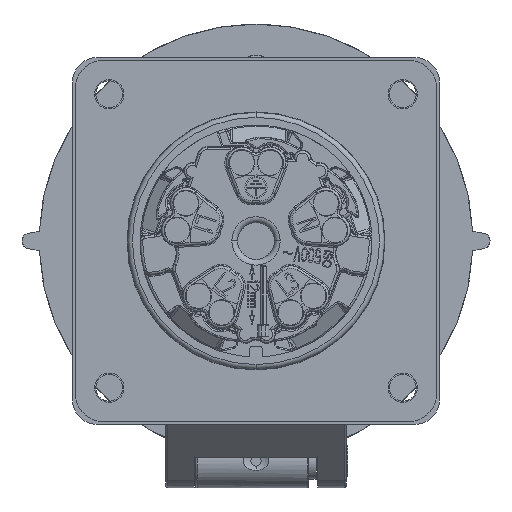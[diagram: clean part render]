
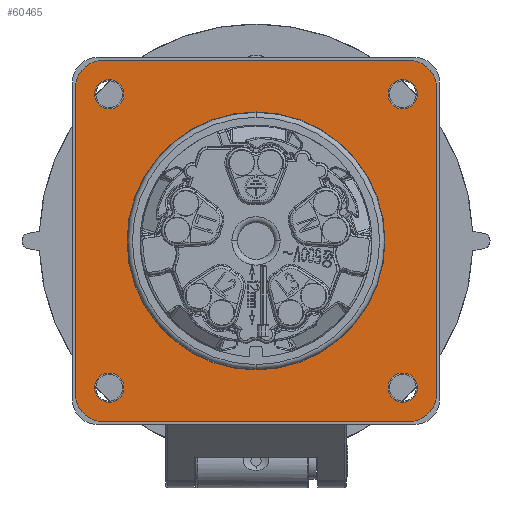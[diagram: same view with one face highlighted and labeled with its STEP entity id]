
A CAD part, front view. The second image highlights one B-rep face of the part: STEP entity #60465.
In plain terms, the highlighted planar face has unit normal (0, -1, 0).
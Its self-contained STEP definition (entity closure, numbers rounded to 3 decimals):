
#11104=CARTESIAN_POINT('',(-31.,-2.,31.));
#11105=DIRECTION('',(0.,-1.,0.));
#11106=DIRECTION('',(0.,0.,1.));
#11107=AXIS2_PLACEMENT_3D('',#11104,#11105,#11106);
#11109=DIRECTION('',(-1.,0.,0.));
#11110=VECTOR('',#11109,62.);
#11111=CARTESIAN_POINT('',(31.,-2.,37.));
#11112=LINE('6906',#11111,#11110);
#11113=CARTESIAN_POINT('',(31.,-2.,31.));
#11114=DIRECTION('',(0.,-1.,0.));
#11115=DIRECTION('',(1.,0.,0.));
#11116=AXIS2_PLACEMENT_3D('',#11113,#11114,#11115);
#11118=DIRECTION('',(0.,0.,1.));
#11119=VECTOR('',#11118,62.);
#11120=CARTESIAN_POINT('',(37.,-2.,-31.));
#11121=LINE('6904',#11120,#11119);
#11122=CARTESIAN_POINT('',(31.,-2.,-31.));
#11123=DIRECTION('',(0.,-1.,0.));
#11124=DIRECTION('',(0.,0.,-1.));
#11125=AXIS2_PLACEMENT_3D('',#11122,#11123,#11124);
#11127=DIRECTION('',(1.,0.,0.));
#11128=VECTOR('',#11127,62.);
#11129=CARTESIAN_POINT('',(-31.,-2.,-37.));
#11130=LINE('6902',#11129,#11128);
#11131=CARTESIAN_POINT('',(-31.,-2.,-31.));
#11132=DIRECTION('',(0.,-1.,0.));
#11133=DIRECTION('',(-1.,0.,0.));
#11134=AXIS2_PLACEMENT_3D('',#11131,#11132,#11133);
#11136=DIRECTION('',(0.,0.,-1.));
#11137=VECTOR('',#11136,62.);
#11138=CARTESIAN_POINT('',(-37.,-2.,31.));
#11139=LINE('6900',#11138,#11137);
#11140=CARTESIAN_POINT('',(-30.,-2.,30.));
#11141=DIRECTION('',(0.,1.,0.));
#11142=DIRECTION('',(1.,0.,0.));
#11143=AXIS2_PLACEMENT_3D('',#11140,#11141,#11142);
#11145=CARTESIAN_POINT('',(-30.,-2.,30.));
#11146=DIRECTION('',(0.,1.,0.));
#11147=DIRECTION('',(-1.,0.,0.));
#11148=AXIS2_PLACEMENT_3D('',#11145,#11146,#11147);
#11150=CARTESIAN_POINT('',(30.,-2.,30.));
#11151=DIRECTION('',(0.,1.,0.));
#11152=DIRECTION('',(1.,0.,0.));
#11153=AXIS2_PLACEMENT_3D('',#11150,#11151,#11152);
#11155=CARTESIAN_POINT('',(30.,-2.,30.));
#11156=DIRECTION('',(0.,1.,0.));
#11157=DIRECTION('',(-1.,0.,0.));
#11158=AXIS2_PLACEMENT_3D('',#11155,#11156,#11157);
#11160=CARTESIAN_POINT('',(-30.,-2.,-30.));
#11161=DIRECTION('',(0.,1.,0.));
#11162=DIRECTION('',(1.,0.,0.));
#11163=AXIS2_PLACEMENT_3D('',#11160,#11161,#11162);
#11165=CARTESIAN_POINT('',(-30.,-2.,-30.));
#11166=DIRECTION('',(0.,1.,0.));
#11167=DIRECTION('',(-1.,0.,0.));
#11168=AXIS2_PLACEMENT_3D('',#11165,#11166,#11167);
#11170=CARTESIAN_POINT('',(30.,-2.,-30.));
#11171=DIRECTION('',(0.,1.,0.));
#11172=DIRECTION('',(1.,0.,0.));
#11173=AXIS2_PLACEMENT_3D('',#11170,#11171,#11172);
#11175=CARTESIAN_POINT('',(30.,-2.,-30.));
#11176=DIRECTION('',(0.,1.,0.));
#11177=DIRECTION('',(-1.,0.,0.));
#11178=AXIS2_PLACEMENT_3D('',#11175,#11176,#11177);
#11320=CARTESIAN_POINT('',(0.,-2.,0.));
#11321=DIRECTION('',(0.,1.,0.));
#11322=DIRECTION('',(0.,0.,1.));
#11323=AXIS2_PLACEMENT_3D('',#11320,#11321,#11322);
#11325=CARTESIAN_POINT('',(0.,-2.,0.));
#11326=DIRECTION('',(0.,1.,0.));
#11327=DIRECTION('',(0.,0.,-1.));
#11328=AXIS2_PLACEMENT_3D('',#11325,#11326,#11327);
#35184=CARTESIAN_POINT('',(-27.,-2.,30.));
#35185=CARTESIAN_POINT('',(-33.,-2.,30.));
#35186=VERTEX_POINT('',#35184);
#35187=VERTEX_POINT('',#35185);
#35188=CARTESIAN_POINT('',(33.,-2.,30.));
#35189=CARTESIAN_POINT('',(27.,-2.,30.));
#35190=VERTEX_POINT('',#35188);
#35191=VERTEX_POINT('',#35189);
#35192=CARTESIAN_POINT('',(-27.,-2.,-30.));
#35193=CARTESIAN_POINT('',(-33.,-2.,-30.));
#35194=VERTEX_POINT('',#35192);
#35195=VERTEX_POINT('',#35193);
#35196=CARTESIAN_POINT('',(33.,-2.,-30.));
#35197=CARTESIAN_POINT('',(27.,-2.,-30.));
#35198=VERTEX_POINT('',#35196);
#35199=VERTEX_POINT('',#35197);
#35200=CARTESIAN_POINT('',(-31.,-2.,37.));
#35201=CARTESIAN_POINT('',(-37.,-2.,31.));
#35202=VERTEX_POINT('',#35200);
#35203=VERTEX_POINT('',#35201);
#35204=CARTESIAN_POINT('',(-37.,-2.,-31.));
#35205=VERTEX_POINT('',#35204);
#35206=CARTESIAN_POINT('',(-31.,-2.,-37.));
#35207=VERTEX_POINT('',#35206);
#35208=CARTESIAN_POINT('',(31.,-2.,-37.));
#35209=VERTEX_POINT('',#35208);
#35210=CARTESIAN_POINT('',(37.,-2.,-31.));
#35211=VERTEX_POINT('',#35210);
#35212=CARTESIAN_POINT('',(37.,-2.,31.));
#35213=VERTEX_POINT('',#35212);
#35214=CARTESIAN_POINT('',(31.,-2.,37.));
#35215=VERTEX_POINT('',#35214);
#35248=CARTESIAN_POINT('',(0.,-2.,26.374));
#35249=CARTESIAN_POINT('',(0.,-2.,-26.374));
#35250=VERTEX_POINT('',#35248);
#35251=VERTEX_POINT('',#35249);
#60414=CARTESIAN_POINT('',(0.,-2.,0.));
#60415=DIRECTION('',(0.,-1.,0.));
#60416=DIRECTION('',(1.,0.,0.));
#60417=AXIS2_PLACEMENT_3D('',#60414,#60415,#60416);
#60418=PLANE('1750',#60417);
#60420=ORIENTED_EDGE('6899',*,*,#60419,.F.);
#60422=ORIENTED_EDGE('6906',*,*,#60421,.F.);
#60424=ORIENTED_EDGE('6905',*,*,#60423,.F.);
#60426=ORIENTED_EDGE('6904',*,*,#60425,.F.);
#60428=ORIENTED_EDGE('6903',*,*,#60427,.F.);
#60430=ORIENTED_EDGE('6902',*,*,#60429,.F.);
#60432=ORIENTED_EDGE('6901',*,*,#60431,.F.);
#60434=ORIENTED_EDGE('6900',*,*,#60433,.F.);
#60435=EDGE_LOOP('1750',(#60420,#60422,#60424,#60426,#60428,#60430,#60432,
#60434));
#60436=FACE_OUTER_BOUND('1750',#60435,.F.);
#60438=ORIENTED_EDGE('6891',*,*,#60437,.F.);
#60440=ORIENTED_EDGE('6892',*,*,#60439,.F.);
#60441=EDGE_LOOP('1750',(#60438,#60440));
#60442=FACE_BOUND('1750',#60441,.F.);
#60444=ORIENTED_EDGE('6893',*,*,#60443,.F.);
#60446=ORIENTED_EDGE('6894',*,*,#60445,.F.);
#60447=EDGE_LOOP('1750',(#60444,#60446));
#60448=FACE_BOUND('1750',#60447,.F.);
#60450=ORIENTED_EDGE('6895',*,*,#60449,.F.);
#60452=ORIENTED_EDGE('6896',*,*,#60451,.F.);
#60453=EDGE_LOOP('1750',(#60450,#60452));
#60454=FACE_BOUND('1750',#60453,.F.);
#60455=ORIENTED_EDGE('6897',*,*,#60380,.F.);
#60456=ORIENTED_EDGE('6898',*,*,#60401,.F.);
#60457=EDGE_LOOP('1750',(#60455,#60456));
#60458=FACE_BOUND('1750',#60457,.F.);
#60460=ORIENTED_EDGE('6923',*,*,#60459,.F.);
#60462=ORIENTED_EDGE('6924',*,*,#60461,.F.);
#60463=EDGE_LOOP('1750',(#60460,#60462));
#60464=FACE_BOUND('1750',#60463,.F.);
#11108=CIRCLE('6899',#11107,6.);
#11117=CIRCLE('6905',#11116,6.);
#11126=CIRCLE('6903',#11125,6.);
#11135=CIRCLE('6901',#11134,6.);
#11144=CIRCLE('6891',#11143,3.);
#11149=CIRCLE('6892',#11148,3.);
#11154=CIRCLE('6893',#11153,3.);
#11159=CIRCLE('6894',#11158,3.);
#11164=CIRCLE('6895',#11163,3.);
#11169=CIRCLE('6896',#11168,3.);
#11174=CIRCLE('6897',#11173,3.);
#11179=CIRCLE('6898',#11178,3.);
#11324=CIRCLE('6923',#11323,26.374);
#11329=CIRCLE('6924',#11328,26.374);
#60380=EDGE_CURVE('6897',#35198,#35199,#11174,.T.);
#60401=EDGE_CURVE('6898',#35199,#35198,#11179,.T.);
#60419=EDGE_CURVE('6899',#35202,#35203,#11108,.T.);
#60421=EDGE_CURVE('6906',#35215,#35202,#11112,.T.);
#60423=EDGE_CURVE('6905',#35213,#35215,#11117,.T.);
#60425=EDGE_CURVE('6904',#35211,#35213,#11121,.T.);
#60427=EDGE_CURVE('6903',#35209,#35211,#11126,.T.);
#60429=EDGE_CURVE('6902',#35207,#35209,#11130,.T.);
#60431=EDGE_CURVE('6901',#35205,#35207,#11135,.T.);
#60433=EDGE_CURVE('6900',#35203,#35205,#11139,.T.);
#60437=EDGE_CURVE('6891',#35186,#35187,#11144,.T.);
#60439=EDGE_CURVE('6892',#35187,#35186,#11149,.T.);
#60443=EDGE_CURVE('6893',#35190,#35191,#11154,.T.);
#60445=EDGE_CURVE('6894',#35191,#35190,#11159,.T.);
#60449=EDGE_CURVE('6895',#35194,#35195,#11164,.T.);
#60451=EDGE_CURVE('6896',#35195,#35194,#11169,.T.);
#60459=EDGE_CURVE('6923',#35250,#35251,#11324,.T.);
#60461=EDGE_CURVE('6924',#35251,#35250,#11329,.T.);
#60465=ADVANCED_FACE('1750',(#60436,#60442,#60448,#60454,#60458,#60464),#60418,
.T.);
